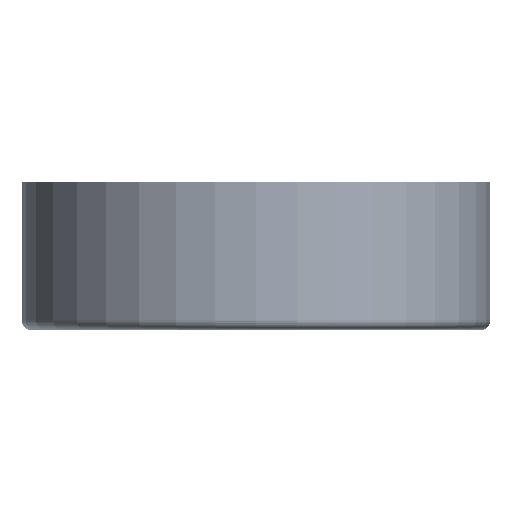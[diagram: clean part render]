
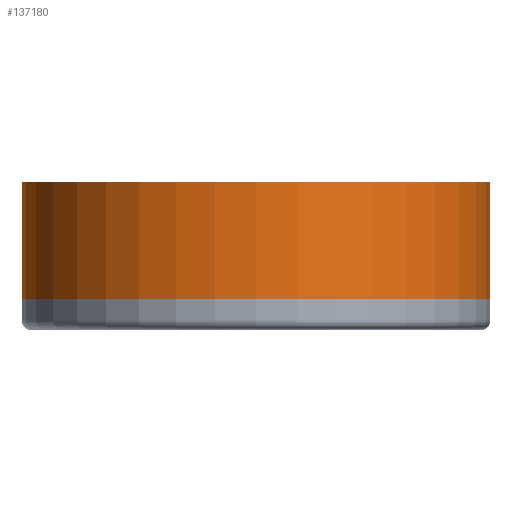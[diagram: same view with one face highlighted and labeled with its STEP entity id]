
A CAD part, top view. The second image highlights one B-rep face of the part: STEP entity #137180.
In plain terms, the highlighted cylindrical face has radius 100 mm (diameter 200 mm), a partial arc.
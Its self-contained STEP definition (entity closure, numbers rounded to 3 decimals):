
#17027=FACE_OUTER_BOUND('',#24770,.T.);
#24770=EDGE_LOOP('',(#111770,#111771,#111772,#111773));
#33421=LINE('',#224753,#45534);
#33422=LINE('',#224759,#45535);
#45534=VECTOR('',#168382,10.);
#45535=VECTOR('',#168389,10.);
#56863=CIRCLE('',#147659,100.);
#56864=CIRCLE('',#147660,100.);
#64756=VERTEX_POINT('',#224749);
#64757=VERTEX_POINT('',#224751);
#64758=VERTEX_POINT('',#224755);
#64759=VERTEX_POINT('',#224757);
#81406=EDGE_CURVE('',#64756,#64757,#33421,.T.);
#81407=EDGE_CURVE('',#64758,#64756,#56863,.T.);
#81408=EDGE_CURVE('',#64759,#64757,#56864,.T.);
#81409=EDGE_CURVE('',#64758,#64759,#33422,.T.);
#111770=ORIENTED_EDGE('',*,*,#81407,.T.);
#111771=ORIENTED_EDGE('',*,*,#81406,.T.);
#111772=ORIENTED_EDGE('',*,*,#81408,.F.);
#111773=ORIENTED_EDGE('',*,*,#81409,.F.);
#132985=CYLINDRICAL_SURFACE('',#147658,100.);
#137180=ADVANCED_FACE('',(#17027),#132985,.T.);
#147658=AXIS2_PLACEMENT_3D('',#224754,#168383,#168384);
#147659=AXIS2_PLACEMENT_3D('',#224756,#168385,#168386);
#147660=AXIS2_PLACEMENT_3D('',#224758,#168387,#168388);
#168382=DIRECTION('',(0.,1.,0.));
#168383=DIRECTION('center_axis',(0.,1.,0.));
#168384=DIRECTION('ref_axis',(-1.,0.,0.));
#168385=DIRECTION('center_axis',(0.,1.,0.));
#168386=DIRECTION('ref_axis',(-1.,0.,0.));
#168387=DIRECTION('center_axis',(0.,1.,0.));
#168388=DIRECTION('ref_axis',(-1.,0.,0.));
#168389=DIRECTION('',(0.,1.,0.));
#224749=CARTESIAN_POINT('',(200.,0.,140.));
#224751=CARTESIAN_POINT('',(200.,50.,140.));
#224753=CARTESIAN_POINT('',(200.,0.,140.));
#224754=CARTESIAN_POINT('Origin',(100.,0.,140.));
#224755=CARTESIAN_POINT('',(0.,0.,140.));
#224756=CARTESIAN_POINT('Origin',(100.,0.,140.));
#224757=CARTESIAN_POINT('',(0.,50.,140.));
#224758=CARTESIAN_POINT('Origin',(100.,50.,140.));
#224759=CARTESIAN_POINT('',(0.,0.,140.));
